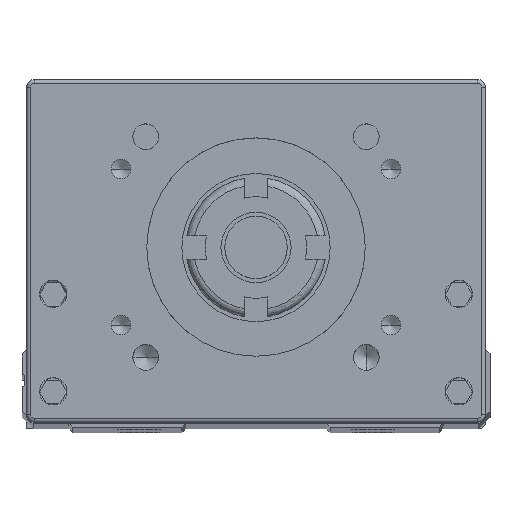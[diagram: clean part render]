
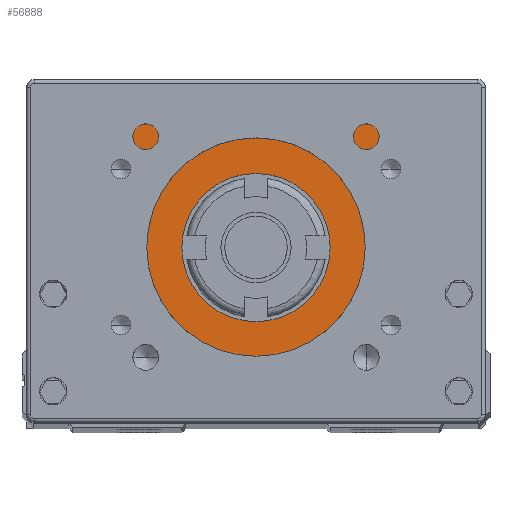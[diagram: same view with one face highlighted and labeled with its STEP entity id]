
A CAD part, top view. The second image highlights one B-rep face of the part: STEP entity #56888.
In plain terms, the highlighted planar face has unit normal (0, 0, 1).
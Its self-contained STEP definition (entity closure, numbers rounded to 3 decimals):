
#69 = EDGE_CURVE ( 'NONE', #19135, #42462, #29093, .T. ) ;
#124 = CARTESIAN_POINT ( 'NONE',  ( 12.935, 32.398, 218.5 ) ) ;
#240 = EDGE_CURVE ( 'NONE', #45884, #50543, #59608, .T. ) ;
#564 = EDGE_CURVE ( 'NONE', #42018, #35996, #4180, .T. ) ;
#793 = VECTOR ( 'NONE', #39252, 1000. ) ;
#1370 = DIRECTION ( 'NONE',  ( 0., 0., 1. ) ) ;
#2354 = ORIENTED_EDGE ( 'NONE', *, *, #55903, .F. ) ;
#3390 = EDGE_CURVE ( 'NONE', #51427, #37279, #59230, .T. ) ;
#3502 = ORIENTED_EDGE ( 'NONE', *, *, #45018, .F. ) ;
#3524 = LINE ( 'NONE', #38715, #41815 ) ;
#3576 = DIRECTION ( 'NONE',  ( -1., 0., 0. ) ) ;
#3869 = ORIENTED_EDGE ( 'NONE', *, *, #34093, .F. ) ;
#4180 = LINE ( 'NONE', #20014, #5007 ) ;
#5007 = VECTOR ( 'NONE', #39340, 1000. ) ;
#5093 = EDGE_CURVE ( 'NONE', #5583, #12002, #62518, .T. ) ;
#5196 = CIRCLE ( 'NONE', #17837, 14. ) ;
#5583 = VERTEX_POINT ( 'NONE', #31078 ) ;
#5889 = DIRECTION ( 'NONE',  ( 0., -1., 0. ) ) ;
#6027 = CARTESIAN_POINT ( 'NONE',  ( 51.735, 32.398, 218.5 ) ) ;
#7350 = DIRECTION ( 'NONE',  ( 0., 0., -1. ) ) ;
#7912 = CARTESIAN_POINT ( 'NONE',  ( 60.735, 26.398, 218.5 ) ) ;
#9217 = CARTESIAN_POINT ( 'NONE',  ( 41.835, 23.898, 218.5 ) ) ;
#9937 = VECTOR ( 'NONE', #11970, 1000. ) ;
#11041 = DIRECTION ( 'NONE',  ( 1., 0., 0. ) ) ;
#11648 = LINE ( 'NONE', #6027, #9937 ) ;
#11970 = DIRECTION ( 'NONE',  ( -1., 0., 0. ) ) ;
#12002 = VERTEX_POINT ( 'NONE', #23725 ) ;
#12170 = ORIENTED_EDGE ( 'NONE', *, *, #69, .F. ) ;
#12298 = AXIS2_PLACEMENT_3D ( 'NONE', #30656, #1370, #21493 ) ;
#12321 = DIRECTION ( 'NONE',  ( 0., 0., -1. ) ) ;
#12646 = FACE_BOUND ( 'NONE', #31528, .T. ) ;
#13208 = DIRECTION ( 'NONE',  ( 0., -1., 0. ) ) ;
#13665 = CARTESIAN_POINT ( 'NONE',  ( 22.835, 23.898, 218.5 ) ) ;
#13715 = EDGE_LOOP ( 'NONE', ( #38355, #16374, #55992, #26374, #3502, #2354, #63632, #64708, #28160, #3869, #59310, #25746, #23827, #12170 ) ) ;
#13867 = CARTESIAN_POINT ( 'NONE',  ( 3.935, 32.398, 218.5 ) ) ;
#14240 = VECTOR ( 'NONE', #49842, 1000. ) ;
#14463 = CARTESIAN_POINT ( 'NONE',  ( 12.935, 12.398, 218.5 ) ) ;
#15121 = CIRCLE ( 'NONE', #28746, 9.5 ) ;
#15472 = EDGE_CURVE ( 'NONE', #37279, #51427, #15121, .T. ) ;
#15504 = EDGE_CURVE ( 'NONE', #12002, #43344, #17220, .T. ) ;
#16079 = LINE ( 'NONE', #30856, #21064 ) ;
#16374 = ORIENTED_EDGE ( 'NONE', *, *, #240, .F. ) ;
#16437 = CARTESIAN_POINT ( 'NONE',  ( 24.351, 12.398, 218.5 ) ) ;
#17220 = LINE ( 'NONE', #33624, #38186 ) ;
#17837 = AXIS2_PLACEMENT_3D ( 'NONE', #46999, #7350, #11041 ) ;
#18268 = CARTESIAN_POINT ( 'NONE',  ( 12.335, 26.398, 218.5 ) ) ;
#19006 = CARTESIAN_POINT ( 'NONE',  ( 51.735, 12.398, 218.5 ) ) ;
#19135 = VERTEX_POINT ( 'NONE', #20724 ) ;
#19245 = LINE ( 'NONE', #18268, #43912 ) ;
#19554 = VECTOR ( 'NONE', #49280, 1000. ) ;
#20014 = CARTESIAN_POINT ( 'NONE',  ( 12.935, 44.398, 218.5 ) ) ;
#20724 = CARTESIAN_POINT ( 'NONE',  ( 3.935, 29.398, 218.5 ) ) ;
#21064 = VECTOR ( 'NONE', #5889, 1000. ) ;
#21493 = DIRECTION ( 'NONE',  ( 1., 0., 0. ) ) ;
#22499 = DIRECTION ( 'NONE',  ( 1., 0., 0. ) ) ;
#23725 = CARTESIAN_POINT ( 'NONE',  ( 60.735, 29.398, 218.5 ) ) ;
#23737 = CARTESIAN_POINT ( 'NONE',  ( 12.935, 26.398, 218.5 ) ) ;
#23784 = CARTESIAN_POINT ( 'NONE',  ( 12.335, 32.398, 218.5 ) ) ;
#23827 = ORIENTED_EDGE ( 'NONE', *, *, #30388, .F. ) ;
#24768 = LINE ( 'NONE', #124, #19554 ) ;
#25295 = AXIS2_PLACEMENT_3D ( 'NONE', #43401, #12321, #46988 ) ;
#25336 = CARTESIAN_POINT ( 'NONE',  ( 51.735, 29.398, 218.5 ) ) ;
#25746 = ORIENTED_EDGE ( 'NONE', *, *, #44763, .F. ) ;
#26374 = ORIENTED_EDGE ( 'NONE', *, *, #56302, .F. ) ;
#28135 = VERTEX_POINT ( 'NONE', #42524 ) ;
#28160 = ORIENTED_EDGE ( 'NONE', *, *, #51785, .T. ) ;
#28746 = AXIS2_PLACEMENT_3D ( 'NONE', #58051, #62002, #22499 ) ;
#28946 = VERTEX_POINT ( 'NONE', #63768 ) ;
#29093 = LINE ( 'NONE', #38319, #793 ) ;
#29227 = LINE ( 'NONE', #14463, #40435 ) ;
#30388 = EDGE_CURVE ( 'NONE', #42462, #42205, #24768, .T. ) ;
#30656 = CARTESIAN_POINT ( 'NONE',  ( 32.335, 23.898, 218.5 ) ) ;
#30856 = CARTESIAN_POINT ( 'NONE',  ( 52.335, 26.398, 218.5 ) ) ;
#31078 = CARTESIAN_POINT ( 'NONE',  ( 60.735, 32.398, 218.5 ) ) ;
#31528 = EDGE_LOOP ( 'NONE', ( #49791, #61644 ) ) ;
#33123 = VECTOR ( 'NONE', #59241, 1000. ) ;
#33300 = PLANE ( 'NONE',  #25295 ) ;
#33624 = CARTESIAN_POINT ( 'NONE',  ( 12.935, 29.398, 218.5 ) ) ;
#34093 = EDGE_CURVE ( 'NONE', #35996, #28135, #16079, .T. ) ;
#35524 = CARTESIAN_POINT ( 'NONE',  ( 12.935, 12.398, 218.5 ) ) ;
#35996 = VERTEX_POINT ( 'NONE', #51173 ) ;
#37247 = DIRECTION ( 'NONE',  ( -1., 0., 0. ) ) ;
#37279 = VERTEX_POINT ( 'NONE', #13665 ) ;
#37525 = EDGE_CURVE ( 'NONE', #48001, #45884, #29227, .T. ) ;
#38186 = VECTOR ( 'NONE', #37247, 1000. ) ;
#38319 = CARTESIAN_POINT ( 'NONE',  ( 3.935, 26.398, 218.5 ) ) ;
#38355 = ORIENTED_EDGE ( 'NONE', *, *, #46185, .F. ) ;
#38715 = CARTESIAN_POINT ( 'NONE',  ( 51.735, 26.398, 218.5 ) ) ;
#39252 = DIRECTION ( 'NONE',  ( 0., 1., 0. ) ) ;
#39308 = VECTOR ( 'NONE', #13208, 1000. ) ;
#39340 = DIRECTION ( 'NONE',  ( 1., 0., 0. ) ) ;
#39399 = LINE ( 'NONE', #61099, #33123 ) ;
#40435 = VECTOR ( 'NONE', #44606, 1000. ) ;
#41815 = VECTOR ( 'NONE', #44236, 1000. ) ;
#41846 = CARTESIAN_POINT ( 'NONE',  ( 12.935, 29.398, 218.5 ) ) ;
#42018 = VERTEX_POINT ( 'NONE', #51556 ) ;
#42205 = VERTEX_POINT ( 'NONE', #23784 ) ;
#42445 = FACE_OUTER_BOUND ( 'NONE', #13715, .T. ) ;
#42462 = VERTEX_POINT ( 'NONE', #13867 ) ;
#42524 = CARTESIAN_POINT ( 'NONE',  ( 52.335, 32.398, 218.5 ) ) ;
#43344 = VERTEX_POINT ( 'NONE', #25336 ) ;
#43401 = CARTESIAN_POINT ( 'NONE',  ( 12.935, 26.398, 218.5 ) ) ;
#43629 = LINE ( 'NONE', #48501, #64625 ) ;
#43912 = VECTOR ( 'NONE', #49307, 1000. ) ;
#44236 = DIRECTION ( 'NONE',  ( 0., -1., 0. ) ) ;
#44606 = DIRECTION ( 'NONE',  ( -1., 0., 0. ) ) ;
#44763 = EDGE_CURVE ( 'NONE', #42205, #42018, #19245, .T. ) ;
#45018 = EDGE_CURVE ( 'NONE', #51699, #28946, #43629, .T. ) ;
#45884 = VERTEX_POINT ( 'NONE', #35524 ) ;
#46185 = EDGE_CURVE ( 'NONE', #50543, #19135, #39399, .T. ) ;
#46988 = DIRECTION ( 'NONE',  ( 0., -1., 0. ) ) ;
#46999 = CARTESIAN_POINT ( 'NONE',  ( 32.335, 23.898, 218.5 ) ) ;
#48001 = VERTEX_POINT ( 'NONE', #16437 ) ;
#48501 = CARTESIAN_POINT ( 'NONE',  ( 12.935, 12.398, 218.5 ) ) ;
#49280 = DIRECTION ( 'NONE',  ( 1., 0., 0. ) ) ;
#49307 = DIRECTION ( 'NONE',  ( 0., 1., 0. ) ) ;
#49791 = ORIENTED_EDGE ( 'NONE', *, *, #3390, .F. ) ;
#49842 = DIRECTION ( 'NONE',  ( 0., 1., 0. ) ) ;
#50543 = VERTEX_POINT ( 'NONE', #41846 ) ;
#51173 = CARTESIAN_POINT ( 'NONE',  ( 52.335, 44.398, 218.5 ) ) ;
#51427 = VERTEX_POINT ( 'NONE', #9217 ) ;
#51556 = CARTESIAN_POINT ( 'NONE',  ( 12.335, 44.398, 218.5 ) ) ;
#51699 = VERTEX_POINT ( 'NONE', #19006 ) ;
#51785 = EDGE_CURVE ( 'NONE', #5583, #28135, #11648, .T. ) ;
#55903 = EDGE_CURVE ( 'NONE', #43344, #51699, #3524, .T. ) ;
#55992 = ORIENTED_EDGE ( 'NONE', *, *, #37525, .F. ) ;
#56302 = EDGE_CURVE ( 'NONE', #28946, #48001, #5196, .T. ) ;
#56888 = ADVANCED_FACE ( 'NONE', ( #12646, #42445 ), #33300, .F. ) ;
#58051 = CARTESIAN_POINT ( 'NONE',  ( 32.335, 23.898, 218.5 ) ) ;
#59230 = CIRCLE ( 'NONE', #12298, 9.5 ) ;
#59241 = DIRECTION ( 'NONE',  ( -1., 0., 0. ) ) ;
#59310 = ORIENTED_EDGE ( 'NONE', *, *, #564, .F. ) ;
#59608 = LINE ( 'NONE', #23737, #14240 ) ;
#61099 = CARTESIAN_POINT ( 'NONE',  ( 12.935, 29.398, 218.5 ) ) ;
#61644 = ORIENTED_EDGE ( 'NONE', *, *, #15472, .F. ) ;
#62002 = DIRECTION ( 'NONE',  ( 0., 0., 1. ) ) ;
#62518 = LINE ( 'NONE', #7912, #39308 ) ;
#63632 = ORIENTED_EDGE ( 'NONE', *, *, #15504, .F. ) ;
#63768 = CARTESIAN_POINT ( 'NONE',  ( 40.32, 12.398, 218.5 ) ) ;
#64625 = VECTOR ( 'NONE', #3576, 1000. ) ;
#64708 = ORIENTED_EDGE ( 'NONE', *, *, #5093, .F. ) ;
